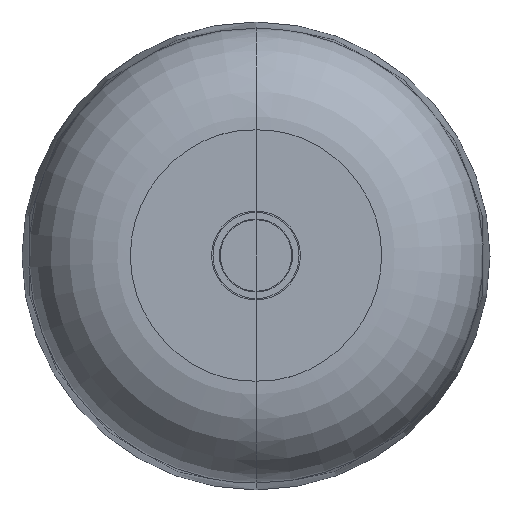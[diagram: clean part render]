
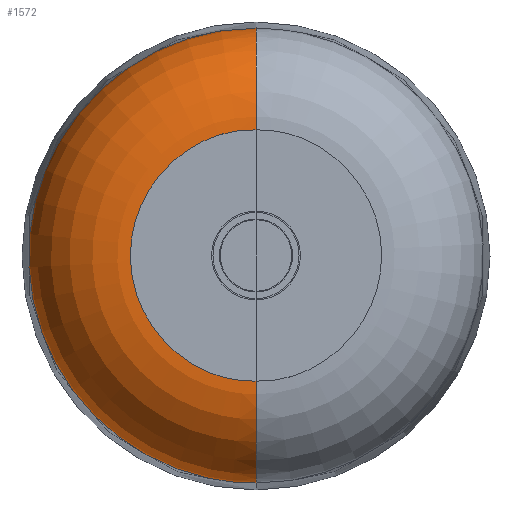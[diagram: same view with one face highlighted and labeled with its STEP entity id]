
A CAD part, top view. The second image highlights one B-rep face of the part: STEP entity #1572.
In plain terms, the highlighted toroidal (fillet/blend) face has major radius 30.043 mm and minor radius 24.334 mm.
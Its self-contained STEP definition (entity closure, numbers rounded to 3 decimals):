
#42=TOROIDAL_SURFACE('',#1736,30.043,24.334);
#78=B_SPLINE_CURVE_WITH_KNOTS('',3,(#3029,#3030,#3031,#3032,#3033,#3034,
#3035,#3036,#3037,#3038),.UNSPECIFIED.,.F.,.F.,(4,1,1,1,1,1,1,4),(0.,0.143,
0.286,0.429,0.571,0.714,
0.857,1.),.UNSPECIFIED.);
#79=B_SPLINE_CURVE_WITH_KNOTS('',3,(#3041,#3042,#3043,#3044,#3045,#3046),
 .UNSPECIFIED.,.F.,.F.,(4,1,1,4),(0.,0.333,0.667,
1.),.UNSPECIFIED.);
#81=B_SPLINE_CURVE_WITH_KNOTS('',3,(#3056,#3057,#3058,#3059,#3060,#3061),
 .UNSPECIFIED.,.F.,.F.,(4,1,1,4),(0.,0.333,0.667,
1.),.UNSPECIFIED.);
#82=B_SPLINE_CURVE_WITH_KNOTS('',3,(#3063,#3064,#3065,#3066,#3067,#3068,
#3069,#3070),.UNSPECIFIED.,.F.,.F.,(4,1,1,1,1,4),(0.,0.2,0.4,0.6,0.8,1.),
 .UNSPECIFIED.);
#243=FACE_OUTER_BOUND('',#351,.T.);
#351=EDGE_LOOP('',(#1341,#1342,#1343,#1344));
#758=VERTEX_POINT('',#3014);
#759=VERTEX_POINT('',#3016);
#760=VERTEX_POINT('',#3040);
#761=VERTEX_POINT('',#3047);
#954=EDGE_CURVE('',#758,#759,#78,.T.);
#955=EDGE_CURVE('',#760,#758,#79,.T.);
#957=EDGE_CURVE('',#759,#761,#81,.T.);
#958=EDGE_CURVE('',#760,#761,#82,.T.);
#1341=ORIENTED_EDGE('',*,*,#954,.T.);
#1342=ORIENTED_EDGE('',*,*,#957,.T.);
#1343=ORIENTED_EDGE('',*,*,#958,.F.);
#1344=ORIENTED_EDGE('',*,*,#955,.T.);
#1572=ADVANCED_FACE('',(#243),#42,.T.);
#1736=AXIS2_PLACEMENT_3D('',#3062,#2124,#2125);
#2124=DIRECTION('center_axis',(0.,0.,-1.));
#2125=DIRECTION('ref_axis',(0.,-1.,0.));
#3014=CARTESIAN_POINT('',(0.,54.362,275.852));
#3016=CARTESIAN_POINT('',(0.,-54.362,275.852));
#3029=CARTESIAN_POINT('Ctrl Pts',(0.,54.362,
275.852));
#3030=CARTESIAN_POINT('Ctrl Pts',(-8.188,54.481,275.852));
#3031=CARTESIAN_POINT('Ctrl Pts',(-24.365,50.595,275.852));
#3032=CARTESIAN_POINT('Ctrl Pts',(-43.96,35.066,275.852));
#3033=CARTESIAN_POINT('Ctrl Pts',(-54.807,12.505,275.852));
#3034=CARTESIAN_POINT('Ctrl Pts',(-54.807,-12.505,275.852));
#3035=CARTESIAN_POINT('Ctrl Pts',(-43.96,-35.066,275.852));
#3036=CARTESIAN_POINT('Ctrl Pts',(-24.365,-50.595,275.852));
#3037=CARTESIAN_POINT('Ctrl Pts',(-8.188,-54.481,275.852));
#3038=CARTESIAN_POINT('Ctrl Pts',(0.,-54.362,
275.852));
#3040=CARTESIAN_POINT('',(0.,30.043,299.336));
#3041=CARTESIAN_POINT('Ctrl Pts',(0.,30.043,
299.336));
#3042=CARTESIAN_POINT('Ctrl Pts',(0.,34.273,
299.447));
#3043=CARTESIAN_POINT('Ctrl Pts',(0.,42.473,
297.123));
#3044=CARTESIAN_POINT('Ctrl Pts',(0.,51.716,
288.197));
#3045=CARTESIAN_POINT('Ctrl Pts',(0.,54.325,
280.083));
#3046=CARTESIAN_POINT('Ctrl Pts',(0.,54.362,
275.852));
#3047=CARTESIAN_POINT('',(0.,-30.043,299.336));
#3056=CARTESIAN_POINT('Ctrl Pts',(0.,-54.362,275.852));
#3057=CARTESIAN_POINT('Ctrl Pts',(0.,-54.325,280.083));
#3058=CARTESIAN_POINT('Ctrl Pts',(0.,-51.716,288.197));
#3059=CARTESIAN_POINT('Ctrl Pts',(0.,-42.473,297.123));
#3060=CARTESIAN_POINT('Ctrl Pts',(0.,-34.273,299.447));
#3061=CARTESIAN_POINT('Ctrl Pts',(0.,-30.043,299.336));
#3062=CARTESIAN_POINT('Origin',(0.,0.,275.002));
#3063=CARTESIAN_POINT('Ctrl Pts',(0.,30.043,
299.336));
#3064=CARTESIAN_POINT('Ctrl Pts',(-6.455,30.265,299.336));
#3065=CARTESIAN_POINT('Ctrl Pts',(-18.783,25.852,299.336));
#3066=CARTESIAN_POINT('Ctrl Pts',(-30.53,9.95,299.336));
#3067=CARTESIAN_POINT('Ctrl Pts',(-30.53,-9.95,299.336));
#3068=CARTESIAN_POINT('Ctrl Pts',(-18.783,-25.852,299.336));
#3069=CARTESIAN_POINT('Ctrl Pts',(-6.455,-30.265,299.336));
#3070=CARTESIAN_POINT('Ctrl Pts',(0.,-30.043,
299.336));
